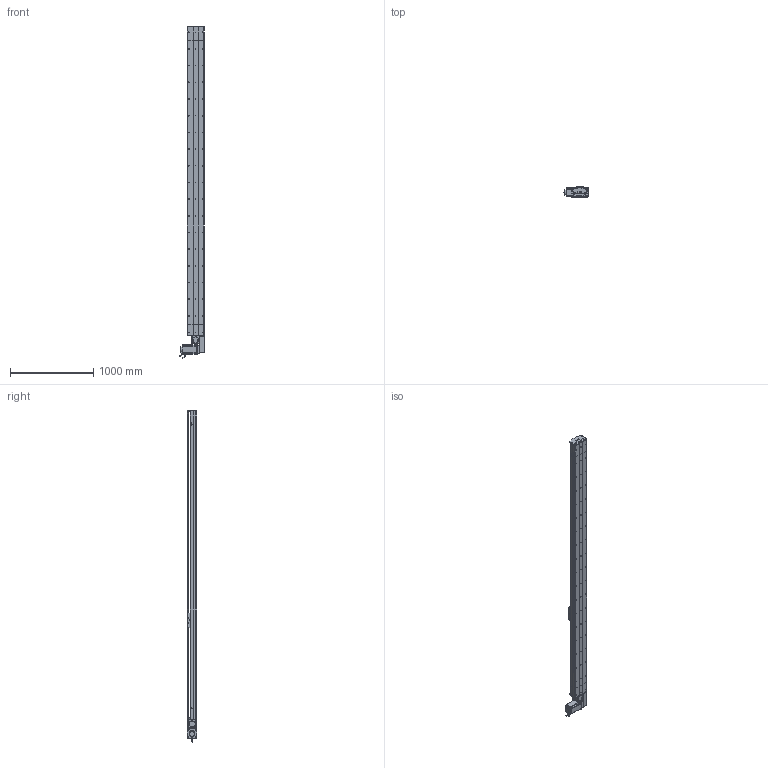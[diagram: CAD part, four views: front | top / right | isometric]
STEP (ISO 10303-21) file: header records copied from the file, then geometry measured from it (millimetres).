
FILE_DESCRIPTION (( 'STEP AP214' ), '1' );
FILE_NAME ('D20 TBH LH S3400.STEP', '2010-07-01T08:59:53', ( 'Conseil Régional Haute-Normandie' ), ( 'Conseil Régional Haute-Normandie' ), 'SwSTEP 2.0', 'SolidWorks 2010', '' );
FILE_SCHEMA (( 'AUTOMOTIVE_DESIGN' ));
Length unit declared in the file: millimetre
Products named in the file (40): Plaque racord D20LH_Default; Renvoi LH D20_Default; plaque de  bout head D20B LH_Default; couroie_Default; avant 110BLDC170A-630x; Moteur motionking 110BLDC170A-640x; vis M5 L5_Default; codeur 110BLDC170A-630x; clavette; Conecteur_Default; vis M5 L70_Default; Conecteur2_Default; corps 110BLDC170A-630x; corpl tail D20_Default; cache arbre D20_Default; vis M8 L12_Default; tail D20_Default; plaque de  bout tail D20_Default; poulie tail D20_Default; cache D20_Default; vis M5 L25_Default; Couroie tail D20_Default; rail tail D20; tete d''axe poulie D20B; vis M5 L8 90°_Default; couvercle tail D20_Default; vis M5 L12_Default; poulie head D20_Default; couvercle head D20_Default; rail + couroie  D20 S3400; Chariot D20B; chariot D20B_Default; rail head D20; corpl head D20_Default; head LH_Default; couvercle D20 S3400_Default; corp D20 S3400_Default; Course B L3400_Default; guide D20B; D20 TBH LH S3400
Assembly tree (71 placements, depth 4):
  D20 TBH LH S3400
    Course B L3400_Default
      couvercle D20 S3400_Default
      rail + couroie  D20 S3400
      corp D20 S3400_Default
    tail D20_Default
      vis M5 L8 90°_Default  x2
      poulie tail D20_Default
      rail tail D20
      tete d''axe poulie D20B
      vis M5 L12_Default  x4
      couvercle tail D20_Default
      plaque de  bout tail D20_Default
      corpl tail D20_Default
      vis M5 L25_Default  x2
      Couroie tail D20_Default
    chariot D20B_Default
      Chariot D20B
      vis M5 L12_Default  x4
      guide D20B  x2
    head LH_Default
      corpl head D20_Default
      vis M5 L12_Default  x10
      poulie head D20_Default
      vis M5 L5_Default  x4
      vis M8 L12_Default  x4
      cache D20_Default  x2
      couvercle head D20_Default
      Plaque racord D20LH_Default
      vis M5 L25_Default  x2
      plaque de  bout head D20B LH_Default
      Renvoi LH D20_Default
      rail head D20
      cache arbre D20_Default
      Moteur motionking 110BLDC170A-640x
        codeur 110BLDC170A-630x
        clavette
        Conecteur2_Default
        corps 110BLDC170A-630x
        Conecteur_Default
        avant 110BLDC170A-630x
      vis M5 L70_Default  x4
      couroie_Default
Bounding box: 304.2 x 115.7 x 3980 mm (x, y, z)
Volume: 29840698.1 mm3; surface area: 7403354.1 mm2
Topology: 95 solids, 95 shells, 2893 faces, 7473 edges, 4833 vertices
Faces by surface type: plane 1646, cylinder 923, bspline 136, cone 99, torus 89
Entity records: 94388 total; most frequent: CARTESIAN_POINT 30905, ORIENTED_EDGE 11602, DIRECTION 10868, EDGE_CURVE 5801, VERTEX_POINT 3819, VECTOR 3640, LINE 3640, AXIS2_PLACEMENT_3D 3614
